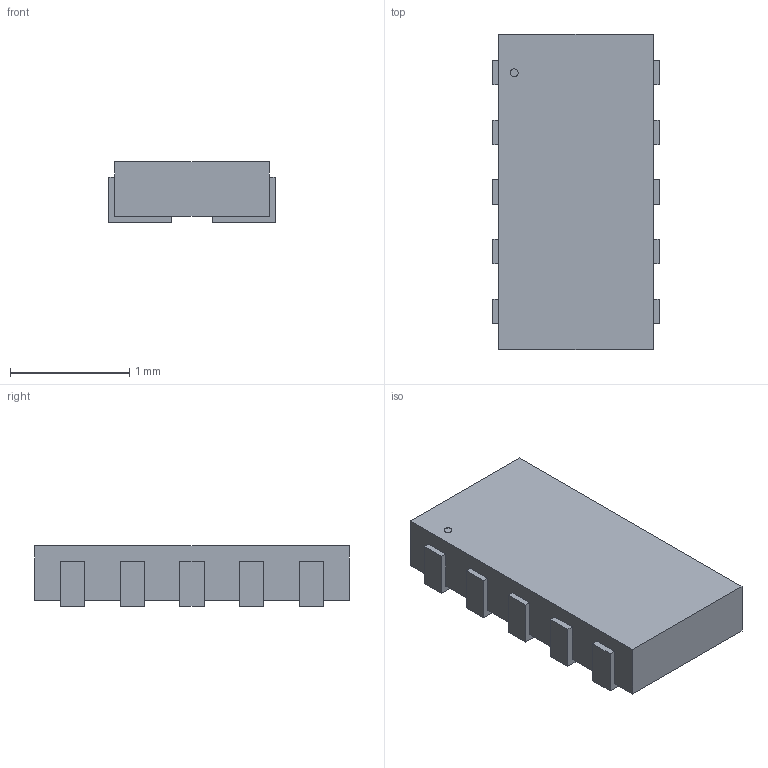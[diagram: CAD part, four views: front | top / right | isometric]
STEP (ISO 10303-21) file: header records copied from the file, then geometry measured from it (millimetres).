
FILE_DESCRIPTION(('STEP AP214'),'1');
FILE_NAME('QFN-10L_DTS','2025-03-26T12:19:39',(''),(''),'','','');
FILE_SCHEMA(('AUTOMOTIVE_DESIGN'));
Length unit declared in the file: millimetre
Products named in the file (1): product
Bounding box: 1.4 x 2.64 x 0.51 mm (x, y, z)
Volume: 1.7 mm3; surface area: 15 mm2
Topology: 12 solids, 12 shells, 89 faces, 195 edges, 130 vertices
Faces by surface type: plane 88, cylinder 1
Full cylindrical faces by diameter (mm): 0.065 x1
Entity records: 2433 total; most frequent: ORIENTED_EDGE 388, DIRECTION 378, CARTESIAN_POINT 223, EDGE_CURVE 194, LINE 192, VECTOR 192, VERTEX_POINT 130, AXIS2_PLACEMENT_3D 93
